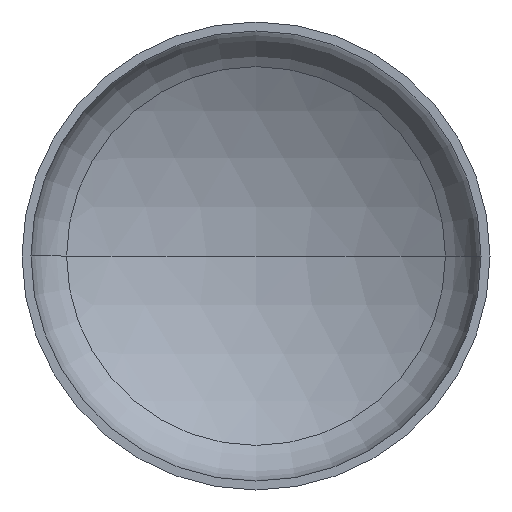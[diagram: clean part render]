
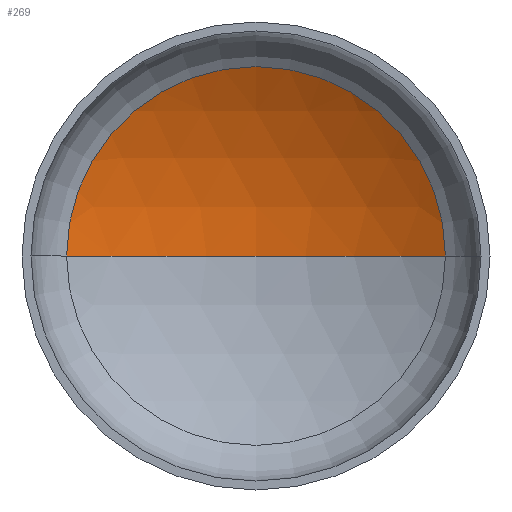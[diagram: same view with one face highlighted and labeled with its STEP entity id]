
A CAD part, front view. The second image highlights one B-rep face of the part: STEP entity #269.
In plain terms, the highlighted spherical face has radius 960 mm.
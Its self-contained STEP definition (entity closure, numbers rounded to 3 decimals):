
#8 = ORIENTED_EDGE ( 'NONE', *, *, #118, .T. ) ;
#13 = VERTEX_POINT ( 'NONE', #277 ) ;
#16 = CARTESIAN_POINT ( 'NONE',  ( 0., -598.551, 0. ) ) ;
#22 = CARTESIAN_POINT ( 'NONE',  ( 0., -598.551, 0. ) ) ;
#23 = EDGE_LOOP ( 'NONE', ( #133, #8, #117 ) ) ;
#30 = AXIS2_PLACEMENT_3D ( 'NONE', #79, #51, #172 ) ;
#33 = VERTEX_POINT ( 'NONE', #278 ) ;
#42 = AXIS2_PLACEMENT_3D ( 'NONE', #22, #362, #213 ) ;
#43 = AXIS2_PLACEMENT_3D ( 'NONE', #16, #329, #399 ) ;
#51 = DIRECTION ( 'NONE',  ( 0., 0., -1. ) ) ;
#53 = AXIS2_PLACEMENT_3D ( 'NONE', #185, #186, #237 ) ;
#55 = VERTEX_POINT ( 'NONE', #233 ) ;
#79 = CARTESIAN_POINT ( 'NONE',  ( 0., -598.551, 0. ) ) ;
#115 = EDGE_CURVE ( 'NONE', #33, #55, #410, .T. ) ;
#117 = ORIENTED_EDGE ( 'NONE', *, *, #115, .T. ) ;
#118 = EDGE_CURVE ( 'NONE', #13, #33, #221, .T. ) ;
#120 = EDGE_CURVE ( 'NONE', #13, #55, #167, .T. ) ;
#133 = ORIENTED_EDGE ( 'NONE', *, *, #120, .F. ) ;
#167 = CIRCLE ( 'NONE', #42, 960. ) ;
#172 = DIRECTION ( 'NONE',  ( -1., 0., 0. ) ) ;
#185 = CARTESIAN_POINT ( 'NONE',  ( 0., 229.59, 0. ) ) ;
#186 = DIRECTION ( 'NONE',  ( 0., -1., 0. ) ) ;
#203 = SPHERICAL_SURFACE ( 'NONE', #30, 960. ) ;
#211 = FACE_OUTER_BOUND ( 'NONE', #23, .T. ) ;
#213 = DIRECTION ( 'NONE',  ( 1., 0., 0. ) ) ;
#221 = CIRCLE ( 'NONE', #43, 960. ) ;
#233 = CARTESIAN_POINT ( 'NONE',  ( -485.574, 229.59, 0. ) ) ;
#237 = DIRECTION ( 'NONE',  ( 1., 0., 0. ) ) ;
#269 = ADVANCED_FACE ( 'NONE', ( #211 ), #203, .F. ) ;
#277 = CARTESIAN_POINT ( 'NONE',  ( 0., 361.449, 0. ) ) ;
#278 = CARTESIAN_POINT ( 'NONE',  ( 485.574, 229.59, 0. ) ) ;
#329 = DIRECTION ( 'NONE',  ( 0., 0., -1. ) ) ;
#362 = DIRECTION ( 'NONE',  ( 0., 0., 1. ) ) ;
#399 = DIRECTION ( 'NONE',  ( -1., 0., 0. ) ) ;
#410 = CIRCLE ( 'NONE', #53, 485.574 ) ;
